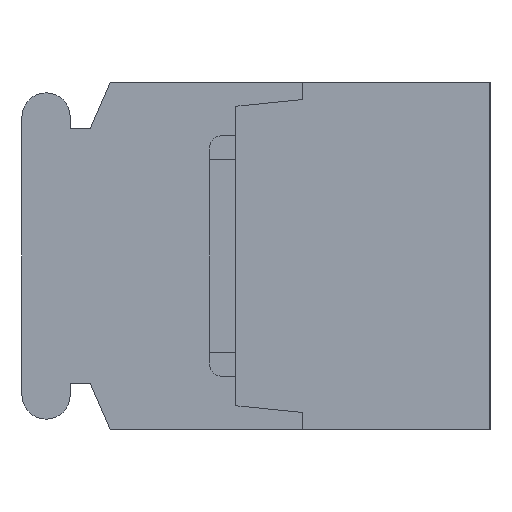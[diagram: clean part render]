
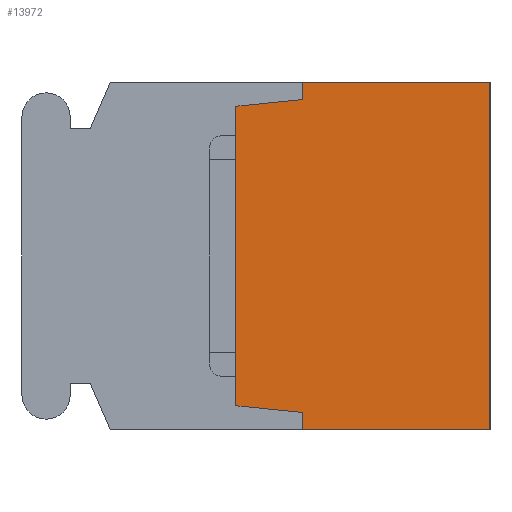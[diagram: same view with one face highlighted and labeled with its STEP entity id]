
A CAD part, left-side view. The second image highlights one B-rep face of the part: STEP entity #13972.
In plain terms, the highlighted planar face has unit normal (-1, 0, 0).
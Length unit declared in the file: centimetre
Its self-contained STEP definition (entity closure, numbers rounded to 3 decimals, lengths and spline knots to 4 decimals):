
#1130=VECTOR('',#15671,1.);
#1151=VECTOR('',#15693,1.);
#1201=VECTOR('',#15759,1.);
#1738=VECTOR('',#17124,1.);
#1739=VECTOR('',#17125,1.);
#1740=VECTOR('',#17126,1.);
#1741=VECTOR('',#17127,1.);
#1742=VECTOR('',#17128,1.);
#2692=LINE('',#19644,#1130);
#2713=LINE('',#19685,#1151);
#2763=LINE('',#19788,#1201);
#3300=LINE('',#21576,#1738);
#3301=LINE('',#21578,#1739);
#3302=LINE('',#21580,#1740);
#3303=LINE('',#21582,#1741);
#3304=LINE('',#21584,#1742);
#4240=VERTEX_POINT('',#19641);
#4241=VERTEX_POINT('',#19643);
#4261=VERTEX_POINT('',#19686);
#4301=VERTEX_POINT('',#19787);
#4816=VERTEX_POINT('',#21577);
#4817=VERTEX_POINT('',#21579);
#4818=VERTEX_POINT('',#21581);
#4819=VERTEX_POINT('',#21583);
#6092=EDGE_CURVE('',#4241,#4240,#2692,.T.);
#6113=EDGE_CURVE('',#4240,#4261,#2713,.T.);
#6165=EDGE_CURVE('',#4301,#4241,#2763,.T.);
#6956=EDGE_CURVE('',#4816,#4301,#3300,.T.);
#6957=EDGE_CURVE('',#4817,#4816,#3301,.T.);
#6958=EDGE_CURVE('',#4818,#4817,#3302,.T.);
#6959=EDGE_CURVE('',#4819,#4818,#3303,.T.);
#6960=EDGE_CURVE('',#4261,#4819,#3304,.T.);
#10614=ORIENTED_EDGE('',*,*,#6092,.F.);
#10615=ORIENTED_EDGE('',*,*,#6165,.F.);
#10616=ORIENTED_EDGE('',*,*,#6956,.F.);
#10617=ORIENTED_EDGE('',*,*,#6957,.F.);
#10618=ORIENTED_EDGE('',*,*,#6958,.F.);
#10619=ORIENTED_EDGE('',*,*,#6959,.F.);
#10620=ORIENTED_EDGE('',*,*,#6960,.F.);
#10621=ORIENTED_EDGE('',*,*,#6113,.F.);
#12298=EDGE_LOOP('',(#10614,#10615,#10616,#10617,#10618,#10619,#10620,#10621));
#13174=FACE_BOUND('',#12298,.T.);
#13972=ADVANCED_FACE('',(#13174),#14611,.F.);
#14611=PLANE('',#23878);
#15671=DIRECTION('',(0.,0.,-1.));
#15693=DIRECTION('',(0.,1.,0.));
#15759=DIRECTION('',(0.,-1.,0.));
#17123=DIRECTION('',(1.,0.,0.));
#17124=DIRECTION('',(0.,0.,1.));
#17125=DIRECTION('',(0.,-0.995,0.1));
#17126=DIRECTION('',(0.,0.,1.));
#17127=DIRECTION('',(0.,0.995,0.1));
#17128=DIRECTION('',(0.,0.,1.));
#19641=CARTESIAN_POINT('',(-1.84,0.,-0.65));
#19643=CARTESIAN_POINT('',(-1.84,0.,0.65));
#19644=CARTESIAN_POINT('',(-1.84,0.,0.65));
#19685=CARTESIAN_POINT('',(-1.84,0.,-0.65));
#19686=CARTESIAN_POINT('',(-1.84,0.7,-0.65));
#19787=CARTESIAN_POINT('',(-1.84,0.7,0.65));
#19788=CARTESIAN_POINT('',(-1.84,0.7,0.65));
#21575=CARTESIAN_POINT('',(-1.84,0.4626,0.));
#21576=CARTESIAN_POINT('',(-1.84,0.7,0.585));
#21577=CARTESIAN_POINT('',(-1.84,0.7,0.585));
#21578=CARTESIAN_POINT('',(-1.84,0.95,0.56));
#21579=CARTESIAN_POINT('',(-1.84,0.95,0.56));
#21580=CARTESIAN_POINT('',(-1.84,0.95,-0.56));
#21581=CARTESIAN_POINT('',(-1.84,0.95,-0.56));
#21582=CARTESIAN_POINT('',(-1.84,0.7,-0.585));
#21583=CARTESIAN_POINT('',(-1.84,0.7,-0.585));
#21584=CARTESIAN_POINT('',(-1.84,0.7,-0.65));
#23878=AXIS2_PLACEMENT_3D('',#21575,#17123,$);
